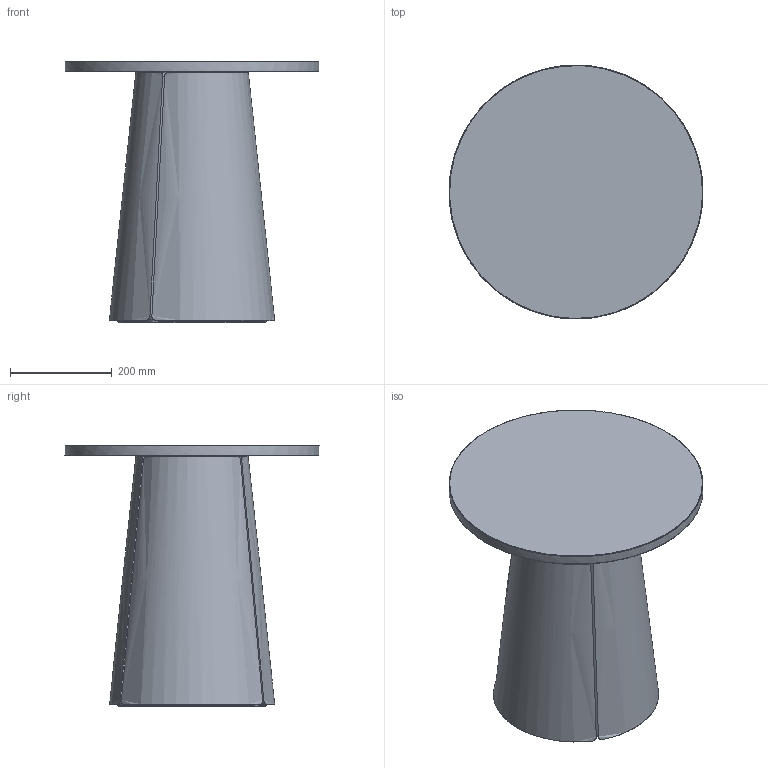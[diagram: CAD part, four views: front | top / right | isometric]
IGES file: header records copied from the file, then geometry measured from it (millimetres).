
Global section: file name: /Volumes/Team/Clients/Pulpo/2019 Bent Glass Table/_data export/20190222_BENT_side table_small.igs; preprocessor: Trout Lake IGES 012 Jan 28 2019; date: 190222.101903; units: millimetre
Bounding box: 499.97 x 499.99 x 514 mm (x, y, z)
Surface area: 1495047.7 mm2 (no closed solid volume)
Topology: 0 solids, 0 shells, 41 faces, 1052 edges, 1046 vertices
Faces by surface type: bspline 41
